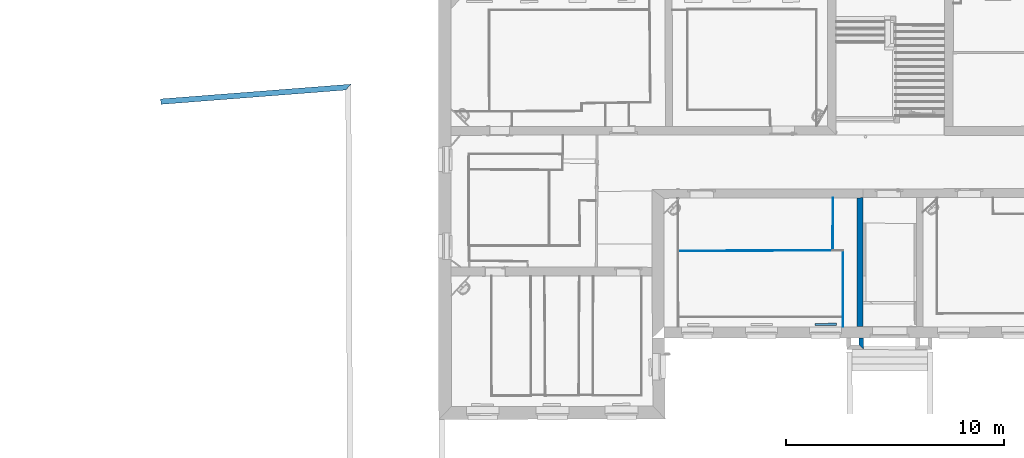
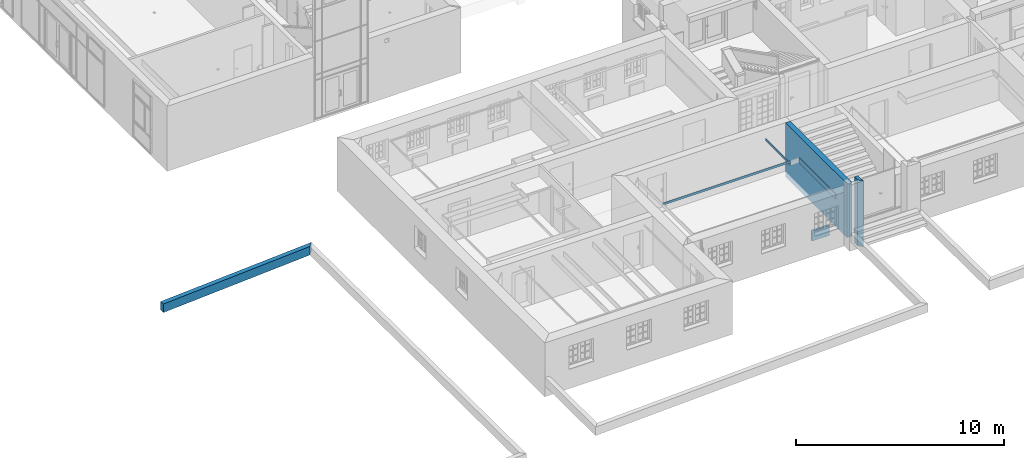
# One storey, part 21 of 196: 7 walls.
"""IFC2X3 building model written with IfcOpenShell, lengths in metres."""

from ifc_helpers import new_model, entity, si_unit, converted_unit, derived_unit, money_unit, direction, frame, origin_with_axes, place, context, subcontext, project, spatial, polyline, outline, extrude, material, layer, layer_set, layer_usage, type_object, element, save


model = new_model("IFC2X3")

# Units and contexts
model_context = context("Model", 3, precision=1e-05, world=origin_with_axes(), true_north=direction((0.0, 1.0)))
body_context = subcontext(model_context, "Body", "Model", "MODEL_VIEW")
ifc_project = project(units=[si_unit("LENGTHUNIT", "METRE"), si_unit("AREAUNIT", "SQUARE_METRE"), si_unit("VOLUMEUNIT", "CUBIC_METRE"), converted_unit("PLANEANGLEUNIT", "DEGREE", entity("IfcPlaneAngleMeasure", 0.0174532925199), si_unit("PLANEANGLEUNIT", "RADIAN"), dimensions=[0, 0, 0, 0, 0, 0, 0]), money_unit("EUR"), converted_unit("TIMEUNIT", "Year", entity("IfcTimeMeasure", 31556926.0), si_unit("TIMEUNIT", "SECOND"), dimensions=[0, 0, 1, 0, 0, 0, 0]), si_unit("MASSUNIT", "GRAM", prefix="KILO"), si_unit("THERMODYNAMICTEMPERATUREUNIT", "DEGREE_CELSIUS"), si_unit("LUMINOUSINTENSITYUNIT", "LUMEN"), si_unit("ENERGYUNIT", "JOULE", prefix="MEGA"), derived_unit("THERMALCONDUCTANCEUNIT", [(si_unit("POWERUNIT", "WATT"), 1), (si_unit("LENGTHUNIT", "METRE"), -1), (si_unit("THERMODYNAMICTEMPERATUREUNIT", "KELVIN"), -1)]), derived_unit("SPECIFICHEATCAPACITYUNIT", [(si_unit("ENERGYUNIT", "JOULE"), 1), (si_unit("MASSUNIT", "GRAM", prefix="KILO"), -1), (si_unit("THERMODYNAMICTEMPERATUREUNIT", "KELVIN"), -1)]), derived_unit("MASSDENSITYUNIT", [(si_unit("MASSUNIT", "GRAM", prefix="KILO"), 1), (si_unit("VOLUMEUNIT", "CUBIC_METRE"), -1)])], contexts=[model_context])

# Site, building, storey
site_placement = place(None, origin_with_axes())
site = spatial("IfcSite", under=ifc_project, at=site_placement, Name="Gelände", CompositionType="ELEMENT")
building_placement = place(site_placement, origin_with_axes())
building = spatial("IfcBuilding", under=site, at=building_placement, Name="Gebäude", CompositionType="ELEMENT")
storey_placement = place(building_placement, frame((0.0, 0.0, -3.0), z_axis=(0.0, 0.0, 1.0), x_axis=(1.0, 0.0, 0.0)))
storey = spatial("IfcBuildingStorey", under=building, at=storey_placement, Name="KELLERGESCHOSS", CompositionType="ELEMENT", Elevation=-3.0)

# Walls
ifc_material_1 = material(Name="05_ALLGEMEIN - TRAGENDE BAUTEILE")
ifc_layer_1 = layer(ifc_material_1, 0.28, ventilated="UNKNOWN")
ifc_layer_set_1 = layer_set([ifc_layer_1], Name="05_ALLGEMEIN - TRAGENDE BAUTEILE 0.28")
ifc_layer_usage_1 = layer_usage(ifc_layer_set_1, "AXIS2", "NEGATIVE", 0.28)
wall_type_1 = type_object("IfcWallType", Name="05_ALLGEMEIN - TRAGENDE BAUTEILE 280", PredefinedType="ELEMENTEDWALL")
wall_1_placement = place(storey_placement, frame((-8.61047578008, 9.93966380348, -0.36), z_axis=(0.0, 0.0, 1.0), x_axis=(-0.000802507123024, 0.999999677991, 0.0)))
element("IfcWallStandardCase", 1, at=wall_1_placement, inside=storey, type_object=wall_type_1, material=ifc_layer_usage_1, Name="Wand-037", ObjectType="ELEMENTEDWALL", context=body_context, shape_type="SweptSolid", body=[
    extrude(outline(polyline([(0.525000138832, 0.0), (6.44962141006, 0.0), (6.44911410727, 0.28), (0.525203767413, 0.28), (0.525000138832, 0.0)])), origin_with_axes(), (0.0, 0.0, 1.0), 3.15),
])
ifc_layer_2 = layer(ifc_material_1, 0.250000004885, ventilated="UNKNOWN")
ifc_layer_set_2 = layer_set([ifc_layer_2], Name="05_ALLGEMEIN - TRAGENDE BAUTEILE 0.25")
ifc_layer_usage_2 = layer_usage(ifc_layer_set_2, "AXIS2", "NEGATIVE", 0.0)
wall_type_2 = type_object("IfcWallType", Name="05_ALLGEMEIN - TRAGENDE BAUTEILE 250", PredefinedType="ELEMENTEDWALL")
wall_2_placement = place(storey_placement, frame((-40.8953881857, 20.9301508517, 0.262), z_axis=(0.0, 0.0, 1.0), x_axis=(0.997008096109, 0.0772971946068, 0.0)))
element("IfcWallStandardCase", 2, at=wall_2_placement, inside=storey, type_object=wall_type_2, material=ifc_layer_usage_2, Name="Wand-043", ObjectType="ELEMENTEDWALL", context=body_context, shape_type="SweptSolid", body=[
    extrude(outline(polyline([(0.0, -0.25), (8.51108111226, -0.25), (8.78005237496, 0.0), (0.0, 0.0), (0.0, -0.25)])), origin_with_axes(), (0.0, 0.0, 1.0), 0.5),
])
ifc_material_2 = material(Name="43_Gipskarton")
ifc_layer_3 = layer(ifc_material_2, 0.03, ventilated="UNKNOWN")
ifc_layer_set_3 = layer_set([ifc_layer_3], Name="43_Gipskarton 0.03")
ifc_layer_usage_3 = layer_usage(ifc_layer_set_3, "AXIS2", "NEGATIVE", 0.0)
wall_type_3 = type_object("IfcWallType", Name="43_Gipskarton 30", PredefinedType="ELEMENTEDWALL")
wall_3_placement = place(storey_placement, frame((-9.54743442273, 10.4595932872, 2.15), z_axis=(0.0, 0.0, 1.0), x_axis=(0.00196565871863, 0.999998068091, 0.0)))
element("IfcWallStandardCase", 3, at=wall_3_placement, inside=storey, type_object=wall_type_3, material=ifc_layer_usage_3, Name="Wand-055", ObjectType="ELEMENTEDWALL", context=body_context, shape_type="SweptSolid", body=[
    extrude(outline(polyline([(0.0, -0.03), (3.5222629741, -0.03), (3.4921084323, 0.0), (0.0, 0.0), (0.0, -0.03)])), origin_with_axes(), (0.0, 0.0, 1.0), 0.29),
])
ifc_layer_usage_4 = layer_usage(ifc_layer_set_3, "AXIS2", "NEGATIVE", 0.0)
wall_4_placement = place(storey_placement, frame((-10.0168835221, 13.9501838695, 2.32), z_axis=(0.0, 0.0, 1.0), x_axis=(-0.999994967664, -0.00317248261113, 0.0)))
element("IfcWallStandardCase", 4, at=wall_4_placement, inside=storey, type_object=wall_type_3, material=ifc_layer_usage_4, Name="Wand-056", ObjectType="ELEMENTEDWALL", context=body_context, shape_type="SweptSolid", body=[
    extrude(outline(polyline([(0.0, -0.03), (7.08216442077, -0.03), (7.08215814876, 0.0), (0.0, 0.0), (0.0, -0.03)])), origin_with_axes(), (0.0, 0.0, 1.0), 0.12),
])
ifc_layer_usage_5 = layer_usage(ifc_layer_set_3, "AXIS2", "NEGATIVE", 0.0)
wall_5_placement = place(storey_placement, frame((-10.0168835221, 13.9501838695, 2.15), z_axis=(0.0, 0.0, 1.0), x_axis=(0.00295130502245, 0.99999564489, 0.0)))
element("IfcWallStandardCase", 5, at=wall_5_placement, inside=storey, type_object=wall_type_3, material=ifc_layer_usage_5, Name="Wand-057", ObjectType="ELEMENTEDWALL", context=body_context, shape_type="SweptSolid", body=[
    extrude(outline(polyline([(0.0301842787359, -0.03), (2.43546541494, -0.03), (2.43546541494, 0.0), (0.0, 0.0), (0.0301842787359, -0.03)])), origin_with_axes(), (0.0, 0.0, 1.0), 0.12),
])
ifc_material_3 = material(Name="01_ALLGEMEIN - BAUTEIL")
ifc_layer_4 = layer(ifc_material_3, 0.105, ventilated="UNKNOWN")
ifc_layer_set_4 = layer_set([ifc_layer_4], Name="01_ALLGEMEIN - BAUTEIL 0.105")
ifc_layer_usage_6 = layer_usage(ifc_layer_set_4, "AXIS2", "NEGATIVE", 0.105)
wall_type_4 = type_object("IfcWallType", Name="01_ALLGEMEIN - BAUTEIL 105", PredefinedType="ELEMENTEDWALL")
wall_6_placement = place(storey_placement, frame((-9.82513519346, 10.623596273, 0.0805299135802), z_axis=(0.0, 0.0, 1.0), x_axis=(-0.999976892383, -0.00679813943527, 0.0)))
element("IfcWallStandardCase", 6, at=wall_6_placement, inside=storey, type_object=wall_type_4, material=ifc_layer_usage_6, Name="Wand-036", ObjectType="ELEMENTEDWALL", context=body_context, shape_type="SweptSolid", body=[
    extrude(outline(polyline([(0.0, 0.0), (0.99072362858, 0.0), (0.99072362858, 0.105), (0.0, 0.105), (0.0, 0.0)])), origin_with_axes(), (0.0, 0.0, 1.0), 0.597873),
])
ifc_layer_5 = layer(ifc_material_3, 0.2, ventilated="UNKNOWN")
ifc_layer_set_5 = layer_set([ifc_layer_5], Name="01_ALLGEMEIN - BAUTEIL 0.2")
ifc_layer_usage_7 = layer_usage(ifc_layer_set_5, "AXIS2", "NEGATIVE", 0.2)
wall_type_5 = type_object("IfcWallType", Name="01_ALLGEMEIN - BAUTEIL 200", PredefinedType="ELEMENTEDWALL")
wall_7_placement = place(storey_placement, frame((-8.59186092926, 9.41802028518, -0.36), z_axis=(0.0, 0.0, 1.0), x_axis=(-7.52624069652e-05, 0.999999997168, 0.0)))
element("IfcWallStandardCase", 7, at=wall_7_placement, inside=storey, type_object=wall_type_5, material=ifc_layer_usage_7, Name="Wand-031", ObjectType="ELEMENTEDWALL", context=body_context, shape_type="SweptSolid", body=[
    extrude(outline(polyline([(0.0, 0.0), (0.521644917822, 0.0), (0.521644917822, 0.2), (0.201703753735, 0.2), (0.0, 0.0)])), origin_with_axes(), (0.0, 0.0, 1.0), 3.861435),
])

save(model, "model.ifc")
